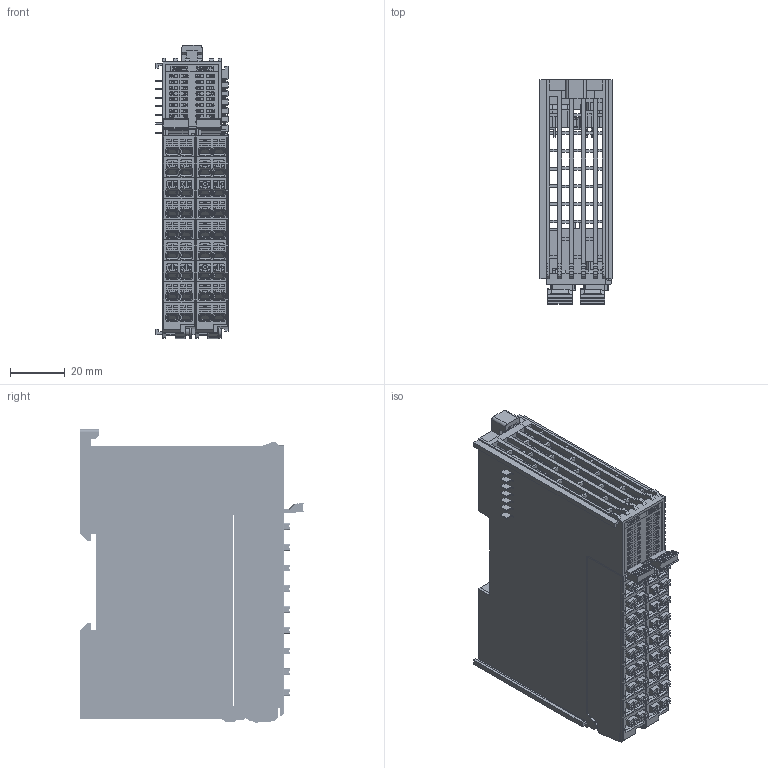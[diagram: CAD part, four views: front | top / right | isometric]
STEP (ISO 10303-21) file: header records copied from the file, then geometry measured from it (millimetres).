
FILE_DESCRIPTION(/* description */ (''),/* implementation_level */ '2;1');
FILE_NAME(/* name */ '双排扩~1',/* time_stamp */ '2023-07-25T09:56:05+08:00',/* author */ (''),/* organization */ (''),/* preprocessor_version */ 'ST-DEVELOPER v16.5',/* originating_system */ '',/* authorisation */ '');
FILE_SCHEMA (('CONFIG_CONTROL_DESIGN'));
Products named in the file (2): Document; IO-C
Assembly tree (1 placements, depth 2):
  Document
    IO-C
Bounding box: 26.49 x 82.41 x 107.66 mm (x, y, z)
Volume: 38453.5 mm3; surface area: 79195.9 mm2
Topology: 2 solids, 542 shells, 7189 faces, 25622 edges, 18602 vertices
Faces by surface type: plane 5385, cylinder 1426, bspline 378
Entity records: 256405 total; most frequent: CARTESIAN_POINT 104932, ORIENTED_EDGE 42055, EDGE_CURVE 25622, B_SPLINE_CURVE_WITH_KNOTS 21274, VERTEX_POINT 18602, EDGE_LOOP 7514, ADVANCED_FACE 7189, FACE_OUTER_BOUND 7189
